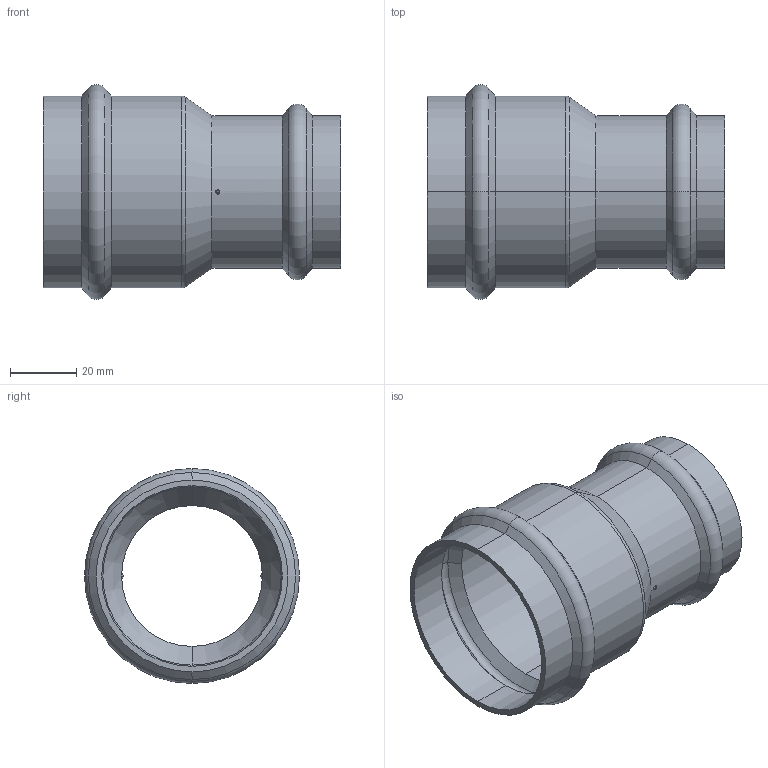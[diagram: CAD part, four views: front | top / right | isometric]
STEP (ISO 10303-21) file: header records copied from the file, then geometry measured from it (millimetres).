
FILE_DESCRIPTION (( 'STEP AP203' ), '1' );
FILE_NAME ('SP5240 54-42.STEP', '2017-04-24T08:40:02', ( '' ), ( '' ), 'SwSTEP 2.0', 'SolidWorks 2016', '' );
FILE_SCHEMA (( 'CONFIG_CONTROL_DESIGN' ));
Length unit declared in the file: millimetre
Products named in the file (1): SP5240 54-42
Bounding box: 89.5 x 64.74 x 64.74 mm (x, y, z)
Volume: 25725.3 mm3; surface area: 32044.7 mm2
Topology: 1 solids, 1 shells, 62 faces, 140 edges, 84 vertices
Faces by surface type: cone 24, cylinder 16, torus 12, sphere 8, plane 2
Entity records: 1990 total; most frequent: CARTESIAN_POINT 472, DIRECTION 342, ORIENTED_EDGE 280, AXIS2_PLACEMENT_3D 151, EDGE_CURVE 140, CIRCLE 88, VERTEX_POINT 84, EDGE_LOOP 68
